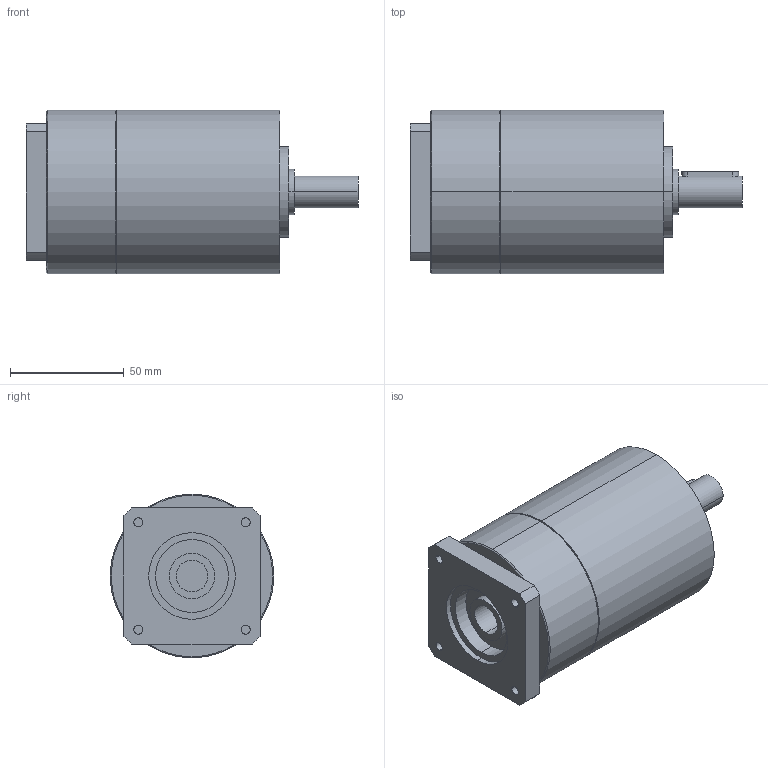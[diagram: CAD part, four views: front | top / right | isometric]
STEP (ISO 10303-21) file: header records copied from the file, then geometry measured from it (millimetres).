
FILE_DESCRIPTION(('CoCreate Modeling STEP Export'),'2;1');
FILE_NAME('GPT75_ig-9-12-16-20-25-28-35-40-50-70-100_14_B14T_14_P28.stp','2014-08-27T13:17:23',(''),(''),'CoCreate Modeling STEP processor for AP214 (Solid Model)','CoCreate Modeling 16.00C 25-Feb-2009 (C) Parametric Technology GmbH','');
FILE_SCHEMA(('AUTOMOTIVE_DESIGN { 1 0 10303 214 1 1 1 1 }'));
Length unit declared in the file: millimetre
Products named in the file (2): GPT75_ig-9-12-16-20-25-28-35-40-50-70-100_14_B14T_14_P28
Assembly tree (1 placements, depth 2):
  GPT75_ig-9-12-16-20-25-28-35-40-50-70-100_14_B14T_14_P28
    GPT75_ig-9-12-16-20-25-28-35-40-50-70-100_14_B14T_14_P28
Bounding box: 146 x 72 x 72 mm (x, y, z)
Volume: 446457.6 mm3; surface area: 39741.7 mm2
Topology: 1 solids, 1 shells, 80 faces, 182 edges, 121 vertices
Faces by surface type: cylinder 42, plane 34, cone 4
Entity records: 2269 total; most frequent: CARTESIAN_POINT 677, ORIENTED_EDGE 364, DIRECTION 268, EDGE_CURVE 182, VERTEX_POINT 121, AXIS2_PLACEMENT_3D 100, EDGE_LOOP 97, FACE_OUTER_BOUND 80
